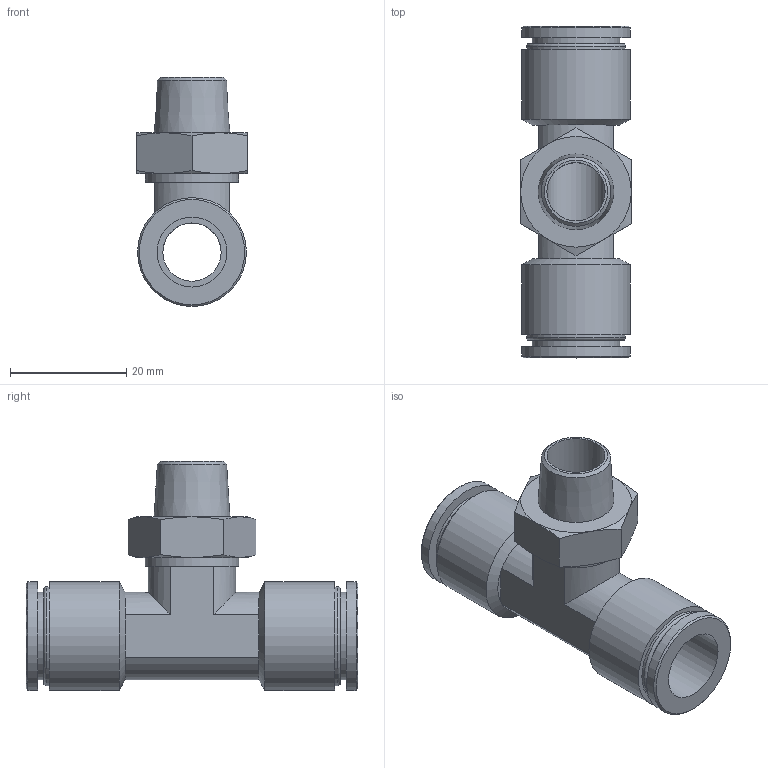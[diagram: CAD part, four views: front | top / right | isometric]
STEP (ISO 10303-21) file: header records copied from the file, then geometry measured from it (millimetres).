
FILE_DESCRIPTION(/* description */ (''),/* implementation_level */ '2;1');
FILE_NAME(/* name */ 'LXH31 0012 B2.stp',/* time_stamp */ '2026-04-22T20:52:20+02:00',/* author */ ('freju'),/* organization */ (''),/* preprocessor_version */ 'ST-DEVELOPER v20.1',/* originating_system */ 'Autodesk Inventor 2026',/* authorisation */ '');
FILE_SCHEMA (('AUTOMOTIVE_DESIGN { 1 0 10303 214 3 1 1 }'));
Length unit declared in the file: millimetre
Products named in the file (1): LXH31 0012 B2
Bounding box: 19 x 57 x 39.35 mm (x, y, z)
Volume: 9407.1 mm3; surface area: 8046.1 mm2
Topology: 1 solids, 1 shells, 68 faces, 145 edges, 89 vertices
Faces by surface type: plane 26, cylinder 22, cone 18, torus 2
Full cylindrical faces by diameter (mm): 10 x2, 12 x2, 15 x2, 16 x1, 17 x2, 18.7 x4
Entity records: 1863 total; most frequent: CARTESIAN_POINT 351, DIRECTION 330, ORIENTED_EDGE 290, EDGE_CURVE 145, AXIS2_PLACEMENT_3D 140, VERTEX_POINT 89, EDGE_LOOP 82, FACE_OUTER_BOUND 68
